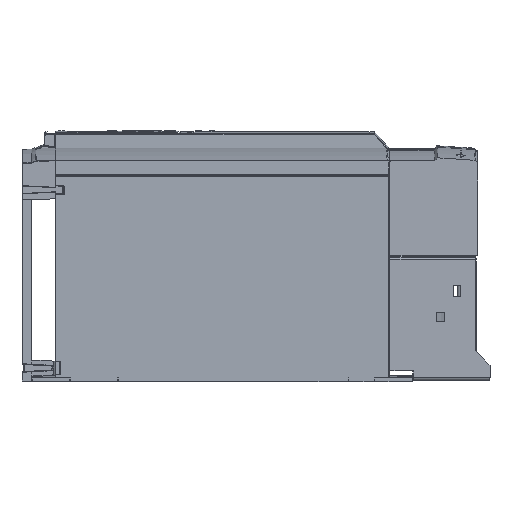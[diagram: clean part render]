
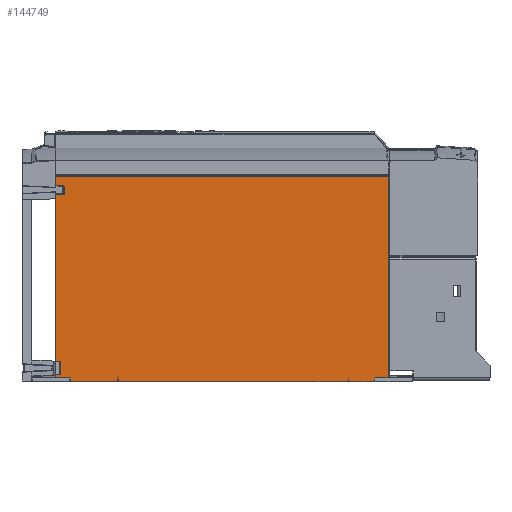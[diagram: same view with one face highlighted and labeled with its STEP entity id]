
A CAD part, left-side view. The second image highlights one B-rep face of the part: STEP entity #144749.
In plain terms, the highlighted planar face has unit normal (-1, 0, 0).
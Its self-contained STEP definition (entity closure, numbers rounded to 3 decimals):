
#16312=CARTESIAN_POINT('',(-82.5,-174.5,3.768));
#16338=CARTESIAN_POINT('',(-82.5,174.75,3.768));
#17687=DIRECTION('',(0.,0.,1.));
#17688=VECTOR('',#17687,3.768);
#17689=CARTESIAN_POINT('',(-82.5,159.156,0.));
#17690=LINE('',#17689,#17688);
#17741=CARTESIAN_POINT('',(-82.5,174.27,205.45));
#17742=CARTESIAN_POINT('',(-82.5,174.43,205.457));
#17743=CARTESIAN_POINT('',(-82.5,174.59,205.464));
#17744=CARTESIAN_POINT('',(-82.5,174.75,205.471));
#17749=DIRECTION('',(0.,0.,1.));
#17750=VECTOR('',#17749,9.179);
#17751=CARTESIAN_POINT('',(-82.5,174.75,205.471));
#17752=LINE('',#17751,#17750);
#17756=DIRECTION('',(0.,1.,0.));
#17757=VECTOR('',#17756,349.25);
#17758=CARTESIAN_POINT('',(-82.5,-174.5,214.65));
#17759=LINE('',#17758,#17757);
#17763=DIRECTION('',(0.,0.,-1.));
#17764=VECTOR('',#17763,210.882);
#17765=CARTESIAN_POINT('',(-82.5,-174.5,214.65));
#17766=LINE('',#17765,#17764);
#17770=DIRECTION('',(0.,1.,0.));
#17771=VECTOR('',#17770,14.95);
#17772=CARTESIAN_POINT('',(-82.5,-174.5,3.768));
#17773=LINE('',#17772,#17771);
#17777=DIRECTION('',(0.,0.,1.));
#17778=VECTOR('',#17777,3.768);
#17779=CARTESIAN_POINT('',(-82.5,-132.589,0.));
#17780=LINE('',#17779,#17778);
#17784=DIRECTION('',(0.,1.,0.));
#17785=VECTOR('',#17784,0.5);
#17786=CARTESIAN_POINT('',(-82.5,-132.589,3.768));
#17787=LINE('',#17786,#17785);
#17791=DIRECTION('',(0.,0.,-1.));
#17792=VECTOR('',#17791,3.775);
#17793=CARTESIAN_POINT('',(-82.5,-132.089,3.768));
#17794=LINE('',#17793,#17792);
#17798=DIRECTION('',(0.,1.,0.));
#17799=VECTOR('',#17798,241.178);
#17800=CARTESIAN_POINT('',(-82.5,-132.089,-0.007));
#17801=LINE('',#17800,#17799);
#17805=DIRECTION('',(0.,0.,1.));
#17806=VECTOR('',#17805,3.775);
#17807=CARTESIAN_POINT('',(-82.5,109.089,-0.007));
#17808=LINE('',#17807,#17806);
#17812=DIRECTION('',(0.,1.,0.));
#17813=VECTOR('',#17812,0.5);
#17814=CARTESIAN_POINT('',(-82.5,109.089,3.768));
#17815=LINE('',#17814,#17813);
#17819=DIRECTION('',(0.,0.,1.));
#17820=VECTOR('',#17819,3.768);
#17821=CARTESIAN_POINT('',(-82.5,109.589,0.));
#17822=LINE('',#17821,#17820);
#17826=DIRECTION('',(0.,1.,0.));
#17827=VECTOR('',#17826,15.594);
#17828=CARTESIAN_POINT('',(-82.5,159.156,3.768));
#17829=LINE('',#17828,#17827);
#17833=DIRECTION('',(0.,0.,1.));
#17834=VECTOR('',#17833,192.182);
#17835=CARTESIAN_POINT('',(-82.5,174.75,3.768));
#17836=LINE('',#17835,#17834);
#17840=DIRECTION('',(0.,1.,0.));
#17841=VECTOR('',#17840,8.854);
#17842=CARTESIAN_POINT('',(-82.5,165.896,195.95));
#17843=LINE('',#17842,#17841);
#17847=DIRECTION('',(0.,0.,-1.));
#17848=VECTOR('',#17847,9.);
#17849=CARTESIAN_POINT('',(-82.5,165.896,
204.95));
#17850=LINE('',#17849,#17848);
#17854=CARTESIAN_POINT('',(-82.5,165.896,
204.95));
#17855=CARTESIAN_POINT('',(-82.5,165.896,
204.967));
#17856=CARTESIAN_POINT('',(-82.5,165.899,
205.001));
#17857=CARTESIAN_POINT('',(-82.5,165.911,
205.055));
#17858=CARTESIAN_POINT('',(-82.5,165.932,
205.111));
#17859=CARTESIAN_POINT('',(-82.5,165.966,
205.17));
#17860=CARTESIAN_POINT('',(-82.5,166.013,
205.228));
#17861=CARTESIAN_POINT('',(-82.5,166.075,
205.285));
#17862=CARTESIAN_POINT('',(-82.5,166.152,
205.337));
#17863=CARTESIAN_POINT('',(-82.5,166.244,
205.383));
#17864=CARTESIAN_POINT('',(-82.5,166.352,
205.42));
#17865=CARTESIAN_POINT('',(-82.5,166.473,
205.444));
#17866=CARTESIAN_POINT('',(-82.5,166.559,
205.45));
#17867=CARTESIAN_POINT('',(-82.5,166.604,205.45));
#17872=DIRECTION('',(0.,1.,0.));
#17873=VECTOR('',#17872,7.667);
#17874=CARTESIAN_POINT('',(-82.5,166.604,205.45));
#17875=LINE('',#17874,#17873);
#107476=DIRECTION('',(0.,0.,1.));
#107477=VECTOR('',#107476,3.768);
#107478=CARTESIAN_POINT('',(-82.5,-159.55,0.));
#107479=LINE('',#107478,#107477);
#107511=DIRECTION('',(0.,-1.,0.));
#107512=VECTOR('',#107511,26.961);
#107513=CARTESIAN_POINT('',(-82.5,-132.589,0.));
#107514=LINE('',#107513,#107512);
#107646=DIRECTION('',(0.,-1.,0.));
#107647=VECTOR('',#107646,49.567);
#107648=CARTESIAN_POINT('',(-82.5,159.156,0.));
#107649=LINE('',#107648,#107647);
#116064=CARTESIAN_POINT('',(-82.5,-132.089,-0.007));
#116065=CARTESIAN_POINT('',(-82.5,109.089,-0.007));
#116066=VERTEX_POINT('',#116064);
#116067=VERTEX_POINT('',#116065);
#116073=CARTESIAN_POINT('',(-82.5,109.089,3.768));
#116075=VERTEX_POINT('',#116073);
#116077=CARTESIAN_POINT('',(-82.5,-132.089,3.768));
#116079=VERTEX_POINT('',#116077);
#116086=CARTESIAN_POINT('',(-82.5,-132.589,0.));
#116087=VERTEX_POINT('',#116086);
#116088=CARTESIAN_POINT('',(-82.5,-159.55,0.));
#116089=VERTEX_POINT('',#116088);
#116112=CARTESIAN_POINT('',(-82.5,-132.589,3.768));
#116113=VERTEX_POINT('',#116112);
#116114=CARTESIAN_POINT('',(-82.5,-159.55,3.768));
#116116=VERTEX_POINT('',#116114);
#116161=VERTEX_POINT('',#16312);
#116168=CARTESIAN_POINT('',(-82.5,109.589,0.));
#116169=VERTEX_POINT('',#116168);
#116170=CARTESIAN_POINT('',(-82.5,159.156,0.));
#116171=VERTEX_POINT('',#116170);
#116194=CARTESIAN_POINT('',(-82.5,109.589,3.768));
#116195=VERTEX_POINT('',#116194);
#116196=CARTESIAN_POINT('',(-82.5,159.156,3.768));
#116198=VERTEX_POINT('',#116196);
#116765=CARTESIAN_POINT('',(-82.5,-174.5,214.65));
#116767=VERTEX_POINT('',#116765);
#117298=CARTESIAN_POINT('',(-82.5,174.75,214.65));
#117300=VERTEX_POINT('',#117298);
#117302=VERTEX_POINT('',#16338);
#117363=VERTEX_POINT('',#17854);
#117364=VERTEX_POINT('',#17867);
#117369=CARTESIAN_POINT('',(-82.5,165.896,195.95));
#117370=VERTEX_POINT('',#117369);
#117568=CARTESIAN_POINT('',(-82.5,174.75,195.95));
#117569=VERTEX_POINT('',#117568);
#126239=VERTEX_POINT('',#17741);
#126240=VERTEX_POINT('',#17744);
#144703=CARTESIAN_POINT('',(-82.5,-175.,3.768));
#144704=DIRECTION('',(-1.,0.,0.));
#144705=DIRECTION('',(0.,0.,1.));
#144706=AXIS2_PLACEMENT_3D('',#144703,#144704,#144705);
#144707=PLANE('',#144706);
#144709=ORIENTED_EDGE('',*,*,#144708,.T.);
#144711=ORIENTED_EDGE('',*,*,#144710,.T.);
#144713=ORIENTED_EDGE('',*,*,#144712,.F.);
#144715=ORIENTED_EDGE('',*,*,#144714,.T.);
#144716=ORIENTED_EDGE('',*,*,#143339,.T.);
#144718=ORIENTED_EDGE('',*,*,#144717,.F.);
#144720=ORIENTED_EDGE('',*,*,#144719,.F.);
#144722=ORIENTED_EDGE('',*,*,#144721,.T.);
#144723=ORIENTED_EDGE('',*,*,#143298,.T.);
#144725=ORIENTED_EDGE('',*,*,#144724,.T.);
#144727=ORIENTED_EDGE('',*,*,#144726,.T.);
#144729=ORIENTED_EDGE('',*,*,#144728,.T.);
#144730=ORIENTED_EDGE('',*,*,#143290,.T.);
#144732=ORIENTED_EDGE('',*,*,#144731,.F.);
#144734=ORIENTED_EDGE('',*,*,#144733,.F.);
#144735=ORIENTED_EDGE('',*,*,#144668,.T.);
#144736=ORIENTED_EDGE('',*,*,#143358,.T.);
#144738=ORIENTED_EDGE('',*,*,#144737,.T.);
#144740=ORIENTED_EDGE('',*,*,#144739,.F.);
#144742=ORIENTED_EDGE('',*,*,#144741,.F.);
#144744=ORIENTED_EDGE('',*,*,#144743,.T.);
#144746=ORIENTED_EDGE('',*,*,#144745,.T.);
#144747=EDGE_LOOP('',(#144709,#144711,#144713,#144715,#144716,#144718,#144720,
#144722,#144723,#144725,#144727,#144729,#144730,#144732,#144734,#144735,#144736,
#144738,#144740,#144742,#144744,#144746));
#144748=FACE_OUTER_BOUND('',#144747,.F.);
#144749=ADVANCED_FACE('',(#144748),#144707,.T.);
#17745=B_SPLINE_CURVE_WITH_KNOTS('',3,(#17741,#17742,#17743,#17744),
.UNSPECIFIED.,.F.,.F.,(4,4),(0.,1.),.UNSPECIFIED.);
#17868=B_SPLINE_CURVE_WITH_KNOTS('',3,(#17854,#17855,#17856,#17857,#17858,
#17859,#17860,#17861,#17862,#17863,#17864,#17865,#17866,#17867),.UNSPECIFIED.,
.F.,.F.,(4,1,1,1,1,1,1,1,1,1,1,4),(0.,0.091,0.182,
0.273,0.364,0.455,0.545,
0.636,0.727,0.818,0.909,1.),
.UNSPECIFIED.);
#143290=EDGE_CURVE('',#116075,#116195,#17815,.T.);
#143298=EDGE_CURVE('',#116113,#116079,#17787,.T.);
#143339=EDGE_CURVE('',#116161,#116116,#17773,.T.);
#143358=EDGE_CURVE('',#116198,#117302,#17829,.T.);
#144668=EDGE_CURVE('',#116171,#116198,#17690,.T.);
#144708=EDGE_CURVE('',#126239,#126240,#17745,.T.);
#144710=EDGE_CURVE('',#126240,#117300,#17752,.T.);
#144712=EDGE_CURVE('',#116767,#117300,#17759,.T.);
#144714=EDGE_CURVE('',#116767,#116161,#17766,.T.);
#144717=EDGE_CURVE('',#116089,#116116,#107479,.T.);
#144719=EDGE_CURVE('',#116087,#116089,#107514,.T.);
#144721=EDGE_CURVE('',#116087,#116113,#17780,.T.);
#144724=EDGE_CURVE('',#116079,#116066,#17794,.T.);
#144726=EDGE_CURVE('',#116066,#116067,#17801,.T.);
#144728=EDGE_CURVE('',#116067,#116075,#17808,.T.);
#144731=EDGE_CURVE('',#116169,#116195,#17822,.T.);
#144733=EDGE_CURVE('',#116171,#116169,#107649,.T.);
#144737=EDGE_CURVE('',#117302,#117569,#17836,.T.);
#144739=EDGE_CURVE('',#117370,#117569,#17843,.T.);
#144741=EDGE_CURVE('',#117363,#117370,#17850,.T.);
#144743=EDGE_CURVE('',#117363,#117364,#17868,.T.);
#144745=EDGE_CURVE('',#117364,#126239,#17875,.T.);
